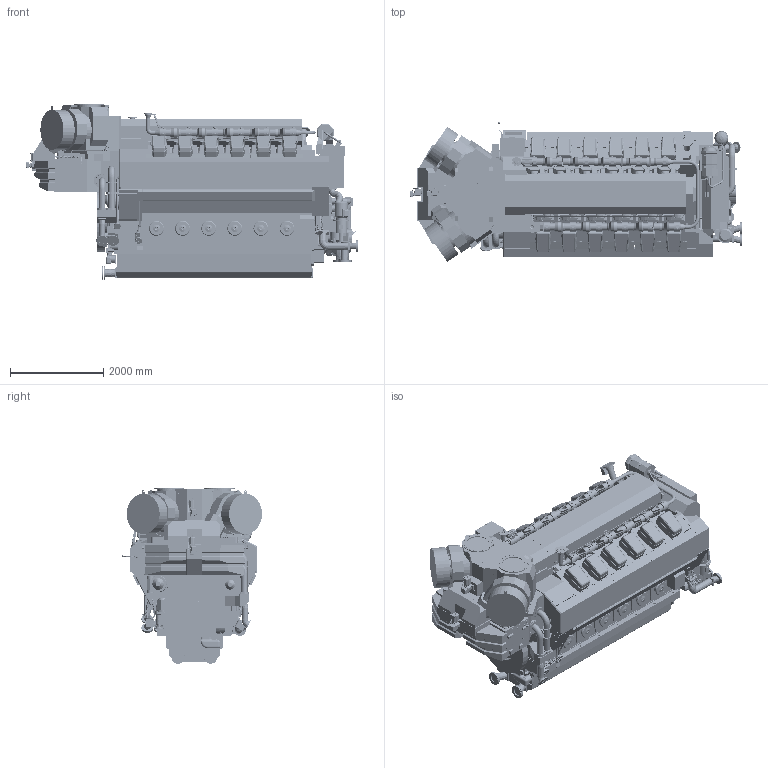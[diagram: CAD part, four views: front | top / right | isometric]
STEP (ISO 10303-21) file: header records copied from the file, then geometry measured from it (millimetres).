
FILE_DESCRIPTION(/* description */ (''),/* implementation_level */ '2;1');
FILE_NAME(/* name */ 'DAAF379826_A.stp',/* time_stamp */ '2021-12-13T11:45:10+02:00',/* author */ (''),/* organization */ (''),/* preprocessor_version */ 'ST-DEVELOPER v16.7',/* originating_system */ 'SIEMENS PLM Software NX 1915',/* authorisation */ '');
FILE_SCHEMA (('AUTOMOTIVE_DESIGN { 1 0 10303 214 3 1 1 1 }'));
Products named in the file (73): PAAF243684_-; PAAF166694_-; PAAF078077_-; PAAF087123_-; PAAF245468_-; PAAF074394_-; PAAF852803_-; PAAF238216_-; PAAF990034_-; PAAF074412_-; PAAF245056_-; PAAF221967_-; PAAF991059_-; PAAF087117_-; PAAF565855_-; PAAF078239_-; PAAF313561_-; PAAF295070_-; PAAF087113_-; PAAF924067_-; PAAF247464_-; PABA034962_-; PAAF063634_-; PAAF304653_-; PAAF078522_-; PAAF087083_-; PAAF243370_-; PAAF078535_-; PABA036926_-; PAAF221638_-; PAAF313559_-; PAAF783146_-; PAAF783084_-; PAAF308706_-; PABA039759_-; PABA039601_-; PAAF308705_-; PAAF087128_-; PAAF078536_-; PAAF078708_-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
Assembly tree (95 placements, depth 2):
  PABA276652_-
    PABA089687_-
    PAAF074479_-
    PAAF087154_-
    PABA274494_-
    PABA173946_-
    PAAF078607_-
    PAAF243367_-
    PAAF090571_-  x2
    PAAF243353_-  x2
    PAAF093851_-
    PABA001563_-
    PABA002426_-
    PABA002081_-
    PABA068010_-
    PABA068023_-  x13
    PABA068052_-  x10
    PABA001772_-
    PABA052478_-
    PABA065852_-
    PABA052425_-
    PABA066964_-
    PAAF245312_-
    PAAF064329_-
    PAAF064590_-
    PAAF195815_-
    PAAF063784_-
    PAAF078635_-
    PAAF785461_-
    PAAF077590_-
    PAAF078609_-
    PAAF093826_-
    PAAF924065_-
    PAAF078708_-
    PAAF078536_-
    PAAF087128_-
    PAAF308705_-
    PABA039601_-
    PABA039759_-
    PAAF308706_-
    PAAF783084_-
    PAAF783146_-
    PAAF313559_-
    PAAF221638_-
    PABA036926_-
    PAAF078535_-
    PAAF243370_-
    PAAF087083_-
    PAAF078522_-
    PAAF304653_-
    PAAF063634_-
    PABA034962_-
    PAAF247464_-
    PAAF924067_-
    PAAF087113_-
    PAAF295070_-
    PAAF313561_-
    PAAF078239_-
    PAAF565855_-
    PAAF087117_-
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Bounding box: 7119.67 x 2999.88 x 3763.51 mm (x, y, z)
Volume: 25609214929.7 mm3; surface area: 335386495.2 mm2
Topology: 407 solids, 555 shells, 19329 faces, 47161 edges, 30060 vertices
Faces by surface type: plane 10397, cylinder 5133, bspline 2592, torus 724, cone 333, extrusion 87, sphere 46, revolution 17
Full cylindrical faces by diameter (mm): 0.005 x8, 0.107 x1, 3.3 x12, 6 x17, 6.5 x12, 8 x47, 8.5 x1, 8.993 x3, 9 x42, 9.5 x1, 9.685 x1, 10 x33, 11 x37, 11.908 x1, 11.995 x1, 12 x74, 12.4 x1, 13.2 x4, 13.5 x5, 14 x92, 14.596 x1, 14.917 x1, 15 x41, 15.5 x4, 15.7 x4, 16 x54, 16.4 x2, 16.5 x3, 16.658 x1, 17 x11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
Entity records: 640687 total; most frequent: CARTESIAN_POINT 229466, ORIENTED_EDGE 82730, DIRECTION 80755, EDGE_CURVE 41365, AXIS2_PLACEMENT_3D 27993, VERTEX_POINT 27355, VECTOR 24752, LINE 24665
